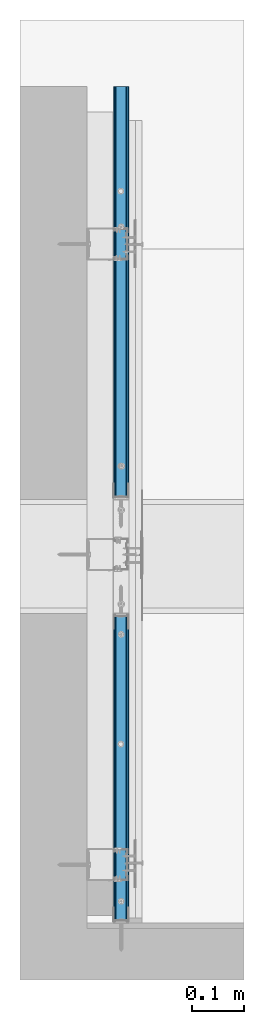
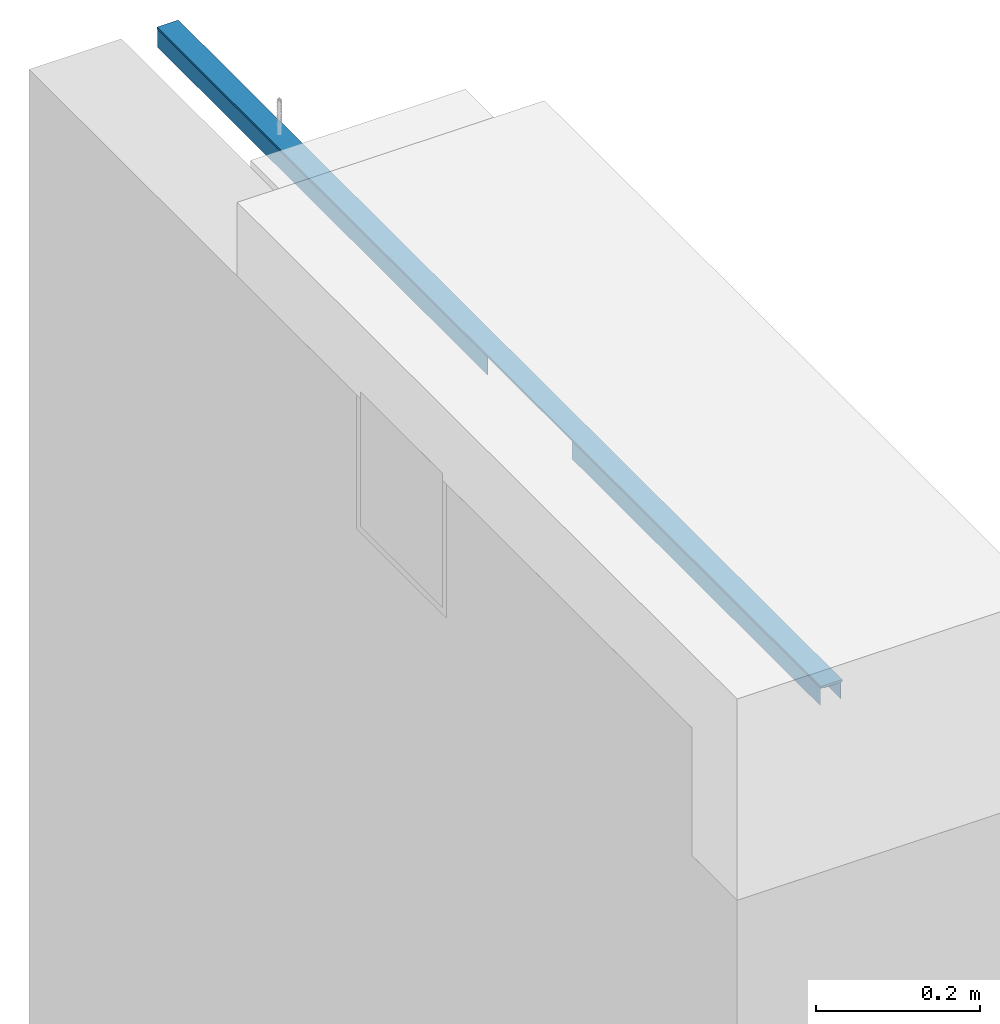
# One storey, part 2 of 67: 2 walls.
"""IFC2X3 building model written with IfcOpenShell, lengths in millimetres."""

from ifc_helpers import new_model, si_unit, frame, origin_with_axes, place, context, subcontext, project, spatial, faceted_brep, material, type_object, element, save


model = new_model("IFC2X3")

# Units and contexts
model_context = context("Model", 3, world=origin_with_axes())
body_context = subcontext(model_context, "Body", "Model", "MODEL_VIEW")
ifc_project = project(units=[si_unit("LENGTHUNIT", "METRE", prefix="MILLI"), si_unit("AREAUNIT", "SQUARE_METRE"), si_unit("VOLUMEUNIT", "CUBIC_METRE")], contexts=[model_context])

# Site, building, storey
site_placement = place(None, frame((2152.14102611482, 674.9749105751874, 57.61556563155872), z_axis=(0.0, 0.0, 1.0), x_axis=(-1.1102230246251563e-16, 1.0, 0.0)))
site = spatial("IfcSite", under=ifc_project, at=site_placement, Name="Default Site", CompositionType="ELEMENT")
building_placement = place(site_placement, origin_with_axes())
building = spatial("IfcBuilding", under=site, at=building_placement, Name="Default Building", CompositionType="ELEMENT")
storey_placement = place(building_placement, origin_with_axes())
storey = spatial("IfcBuildingStorey", under=building, at=storey_placement, Name="Default Building Storey", CompositionType="ELEMENT", Elevation=57.61556563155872)

# Walls
ifc_material_1 = material(Name="Undefined13")
wall_type_1 = type_object("IfcWallType", Name="Taśma uszczelniająca piankowa RIGIPS#3", PredefinedType="NOTDEFINED")
wall_1_placement = place(storey_placement, frame((5610.165077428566, 472.860294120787, 2631.3590203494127), z_axis=(6.092619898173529e-14, 6.866451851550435e-13, -1.0), x_axis=(-1.0, -2.0134422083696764e-15, -6.092619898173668e-14)))
element("IfcWall", 1, at=wall_1_placement, inside=storey, type_object=wall_type_1, material=ifc_material_1, Name="Taśma uszczelniająca piankowa RIGIPS", context=body_context, shape_type="Brep", body=[
    faceted_brep([(1867.1244382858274, 1498.965978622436, 113.97500336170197), (1867.1244382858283, 1498.9659786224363, 110.9749972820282), (1867.1244382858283, 1468.966007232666, 110.9749972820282), (1867.1244382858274, 1468.9660072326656, 113.97500336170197), (3487.5264937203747, 1498.9659786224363, 110.9749972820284), (3487.5264937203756, 1498.965978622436, 113.97500336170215), (3487.5264937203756, 1468.9660072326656, 113.97500336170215), (3487.5264937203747, 1468.9660072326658, 110.9749972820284)], [[[0, 1, 2, 3]], [[4, 5, 6, 7]], [[5, 0, 3, 6]], [[6, 3, 2, 7]], [[7, 2, 1, 4]], [[4, 1, 0, 5]]]),
])
ifc_material_2 = material(Name="Undefined9")
wall_type_2 = type_object("IfcWallType", Name="Profil RIGIPS UD 30 GypSerra®/Ultrastil®#6", PredefinedType="NOTDEFINED")
wall_2_placement = place(storey_placement, frame((5248.130911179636, 472.8602059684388, 2631.3590203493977), z_axis=(6.092619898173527e-14, 6.866451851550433e-13, -1.0), x_axis=(-1.0, -2.0134422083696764e-15, -6.092619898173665e-14)))
element("IfcWall", 2, at=wall_2_placement, inside=storey, type_object=wall_type_2, material=ifc_material_2, Name="Profil RIGIPS UD 30 GypSerra®/Ultrastil®", context=body_context, shape_type="Brep", body=[
    faceted_brep([(2311.0903234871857, 1469.366073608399, 140.97499847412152), (2311.0903234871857, 1469.9159860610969, 140.97499847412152), (2311.090323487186, 1469.9159860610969, 114.77500200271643), (2311.090323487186, 1469.9190855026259, 114.73589390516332), (2311.090323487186, 1469.92826461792, 114.69774693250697), (2311.090323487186, 1469.9432849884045, 114.66149985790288), (2311.090323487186, 1469.9637889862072, 114.62805420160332), (2311.090323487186, 1469.9892997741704, 114.59822207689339), (2311.090323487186, 1470.019102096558, 114.57274854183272), (2311.090323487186, 1470.0524806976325, 114.5522519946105), (2311.090323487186, 1470.088720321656, 114.53723907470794), (2311.090323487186, 1470.1268672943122, 114.52807486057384), (2311.090323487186, 1470.1660871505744, 114.5249977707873), (2311.090323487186, 1472.0159769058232, 114.52499777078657), (2311.090323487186, 1472.0621109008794, 114.5292893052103), (2311.090323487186, 1472.1066951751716, 114.54199999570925), (2311.090323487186, 1472.1480607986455, 114.56270515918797), (2311.090323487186, 1472.184896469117, 114.59068953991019), (2311.090323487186, 1472.21601009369, 114.62499946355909), (2311.0903234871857, 1473.2360839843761, 115.98499864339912), (2311.0903234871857, 1473.4039306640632, 116.1702573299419), (2311.0903234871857, 1473.6031293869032, 116.3213849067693), (2311.0903234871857, 1473.8266468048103, 116.43319576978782), (2311.0903234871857, 1474.0670919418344, 116.50185286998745), (2311.0903234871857, 1474.3160009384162, 116.52500182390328), (2311.0903234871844, 1493.6159849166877, 116.52500182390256), (2311.0903234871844, 1493.8650131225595, 116.50185286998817), (2311.0903234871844, 1494.1053390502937, 116.43319576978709), (2311.0903234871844, 1494.3289756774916, 116.32138490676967), (2311.0903234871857, 1494.5281744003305, 116.1702573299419), (2311.0903234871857, 1494.6960210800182, 115.98499864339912), (2311.090323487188, 1495.715975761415, 114.62499946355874), (2311.090323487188, 1495.747089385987, 114.59068953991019), (2311.090323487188, 1495.784044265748, 114.56270515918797), (2311.090323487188, 1495.8254098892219, 114.54199999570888), (2311.090323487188, 1495.8698749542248, 114.52928930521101), (2311.090323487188, 1495.916008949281, 114.5249977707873), (2311.090323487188, 1497.7660179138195, 114.52499777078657), (2311.090323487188, 1497.805118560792, 114.52807486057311), (2311.090323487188, 1497.843265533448, 114.53723907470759), (2311.090323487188, 1497.8795051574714, 114.5522519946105), (2311.090323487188, 1497.9130029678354, 114.57274854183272), (2311.090323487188, 1497.9428052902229, 114.59822207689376), (2311.090323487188, 1497.9683160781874, 114.62805420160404), (2311.090323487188, 1497.98882007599, 114.6614998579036), (2311.090323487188, 1498.003840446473, 114.69774693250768), (2311.090323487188, 1498.0129003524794, 114.73589390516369), (2311.090323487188, 1498.0159997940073, 114.77500200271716), (2311.0903234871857, 1498.0159997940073, 140.9749984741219), (2311.0903234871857, 1498.5660314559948, 140.9749984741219), (2311.090323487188, 1498.5660314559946, 114.7750020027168), (2311.090323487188, 1498.556137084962, 114.64985460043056), (2311.090323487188, 1498.5269308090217, 114.5277842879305), (2311.090323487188, 1498.478889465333, 114.41180855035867), (2311.090323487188, 1498.4132051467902, 114.30477350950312), (2311.090323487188, 1498.3316659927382, 114.2093166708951), (2311.090323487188, 1498.2362985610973, 114.12778496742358), (2311.090323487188, 1498.1292486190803, 114.06219750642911), (2311.090323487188, 1498.0132579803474, 114.01415616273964), (2311.090323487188, 1497.8911876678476, 113.9848530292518), (2311.090323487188, 1497.7660179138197, 113.97500336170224), (2311.090323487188, 1495.9160089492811, 113.97500336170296), (2311.090323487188, 1495.7685470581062, 113.9887198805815), (2311.090323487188, 1495.6260919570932, 114.0294075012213), (2311.090323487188, 1495.4935312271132, 114.09565806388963), (2311.090323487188, 1495.375514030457, 114.18521404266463), (2311.090323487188, 1495.2759742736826, 114.29499834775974), (2311.0903234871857, 1494.2560195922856, 115.65499752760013), (2311.0903234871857, 1494.1565990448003, 115.7647818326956), (2311.0903234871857, 1494.0385818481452, 115.8543378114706), (2311.0903234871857, 1493.9060211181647, 115.9205958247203), (2311.0903234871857, 1493.7635660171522, 115.96128344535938), (2311.0903234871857, 1493.6159849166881, 115.97499996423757), (2311.0903234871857, 1474.3160009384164, 115.9749999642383), (2311.0903234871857, 1474.1685390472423, 115.96128344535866), (2311.0903234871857, 1474.026083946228, 115.92059582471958), (2311.0903234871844, 1473.893523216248, 115.8543378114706), (2311.0903234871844, 1473.7755060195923, 115.76478183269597), (2311.0903234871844, 1473.6760854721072, 115.65499752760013), (2311.090323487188, 1472.6560115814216, 114.2949983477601), (2311.090323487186, 1472.5565910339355, 114.1852140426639), (2311.090323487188, 1472.4385738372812, 114.09565806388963), (2311.090323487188, 1472.3060131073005, 114.02940750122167), (2311.090323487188, 1472.1635580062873, 113.9887198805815), (2311.090323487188, 1472.0159769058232, 113.97500336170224), (2311.090323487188, 1470.1660871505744, 113.97500336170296), (2311.090323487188, 1470.0409173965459, 113.9848530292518), (2311.090323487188, 1469.918847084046, 114.01415616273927), (2311.090323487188, 1469.802856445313, 114.06219750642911), (2311.090323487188, 1469.6958065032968, 114.12778496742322), (2311.090323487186, 1469.600319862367, 114.20931667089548), (2311.090323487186, 1469.5187807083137, 114.30477350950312), (2311.090323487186, 1469.453215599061, 114.41180855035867), (2311.090323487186, 1469.4051742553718, 114.52778428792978), (2311.090323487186, 1469.3758487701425, 114.64985460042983), (2311.090323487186, 1469.366073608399, 114.77500200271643), (1505.0902720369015, 1469.3660736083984, 114.775002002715), (1505.0902720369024, 1469.3660736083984, 140.97499847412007), (1505.0902720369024, 1469.9159860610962, 140.97499847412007), (1505.0902720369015, 1469.9159860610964, 114.775002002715), (1505.0902720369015, 1469.9190855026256, 114.73589390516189), (1505.0902720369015, 1469.9282646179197, 114.69774693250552), (1505.0902720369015, 1469.9432849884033, 114.66149985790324), (1505.0902720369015, 1469.963788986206, 114.62805420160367), (1505.0902720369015, 1469.9892997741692, 114.59822207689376), (1505.0902720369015, 1470.019102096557, 114.57274854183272), (1505.0902720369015, 1470.0524806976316, 114.5522519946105), (1505.0902720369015, 1470.0887203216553, 114.53723907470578), (1505.0902720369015, 1470.1268672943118, 114.52807486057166), (1505.0902720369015, 1470.166087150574, 114.52499777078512), (1505.0902720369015, 1472.015976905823, 114.52499777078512), (1505.0902720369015, 1472.0621109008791, 114.52928930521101), (1505.0902720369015, 1472.1066951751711, 114.54199999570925), (1505.0902720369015, 1472.1480607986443, 114.56270515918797), (1505.0902720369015, 1472.1848964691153, 114.59068953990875), (1505.0902720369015, 1472.2160100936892, 114.62499946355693), (1505.0902720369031, 1473.236083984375, 115.98499864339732), (1505.0902720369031, 1473.4039306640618, 116.1702573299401), (1505.0902720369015, 1473.6031293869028, 116.32138490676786), (1505.0902720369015, 1473.826646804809, 116.43319576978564), (1505.0902720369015, 1474.0670919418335, 116.50185286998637), (1505.0902720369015, 1474.3160009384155, 116.5250018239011), (1505.0902720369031, 1493.615984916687, 116.52500182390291), (1505.0902720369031, 1493.8650131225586, 116.50185286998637), (1505.0902720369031, 1494.1053390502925, 116.43319576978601), (1505.0902720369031, 1494.3289756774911, 116.32138490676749), (1505.0902720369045, 1494.528174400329, 116.17025732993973), (1505.0902720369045, 1494.696021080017, 115.98499864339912), (1505.0902720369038, 1495.7159757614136, 114.62499946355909), (1505.0902720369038, 1495.7470893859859, 114.59068953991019), (1505.0902720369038, 1495.7840442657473, 114.56270515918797), (1505.0902720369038, 1495.8254098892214, 114.54199999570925), (1505.0902720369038, 1495.8698749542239, 114.52928930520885), (1505.0902720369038, 1495.91600894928, 114.52499777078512), (1505.0902720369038, 1497.7660179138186, 114.52499777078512), (1505.0902720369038, 1497.8051185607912, 114.52807486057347), (1505.0902720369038, 1497.8432655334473, 114.53723907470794), (1505.0902720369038, 1497.8795051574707, 114.5522519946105), (1505.0902720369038, 1497.913002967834, 114.57274854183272), (1505.0902720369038, 1497.9428052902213, 114.59822207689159), (1505.0902720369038, 1497.968316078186, 114.62805420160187), (1505.0902720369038, 1497.9888200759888, 114.66149985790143), (1505.0902720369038, 1498.0038404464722, 114.69774693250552), (1505.0902720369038, 1498.012900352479, 114.73589390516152), (1505.0902720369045, 1498.0159997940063, 114.775002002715), (1505.0902720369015, 1498.0159997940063, 140.97499847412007), (1505.0902720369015, 1498.5660314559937, 140.97499847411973), (1505.0902720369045, 1498.5660314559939, 114.775002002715), (1505.0902720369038, 1498.556137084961, 114.6498546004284), (1505.0902720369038, 1498.526930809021, 114.52778428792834), (1505.0902720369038, 1498.478889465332, 114.41180855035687), (1505.0902720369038, 1498.4132051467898, 114.30477350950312), (1505.0902720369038, 1498.331665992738, 114.20931667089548), (1505.0902720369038, 1498.236298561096, 114.12778496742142), (1505.0902720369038, 1498.1292486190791, 114.06219750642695), (1505.0902720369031, 1498.013257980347, 114.01415616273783), (1505.0902720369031, 1497.8911876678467, 113.9848530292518), (1505.0902720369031, 1497.7660179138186, 113.97500336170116), (1505.0902720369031, 1495.91600894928, 113.97500336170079), (1505.0902720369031, 1495.7685470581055, 113.9887198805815), (1505.0902720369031, 1495.6260919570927, 114.02940750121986), (1505.0902720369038, 1495.4935312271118, 114.09565806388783), (1505.0902720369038, 1495.3755140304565, 114.18521404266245), (1505.0902720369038, 1495.2759742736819, 114.2949983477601), (1505.0902720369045, 1494.2560195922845, 115.65499752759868), (1505.0902720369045, 1494.1565990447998, 115.7647818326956), (1505.0902720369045, 1494.0385818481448, 115.85433781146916), (1505.0902720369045, 1493.9060211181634, 115.92059582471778), (1505.0902720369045, 1493.7635660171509, 115.96128344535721), (1505.0902720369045, 1493.615984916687, 115.97499996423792), (1505.0902720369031, 1474.3160009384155, 115.97499996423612), (1505.0902720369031, 1474.1685390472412, 115.96128344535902), (1505.0902720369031, 1474.0260839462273, 115.92059582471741), (1505.0902720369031, 1473.8935232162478, 115.8543378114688), (1505.0902720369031, 1473.7755060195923, 115.76478183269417), (1505.0902720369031, 1473.6760854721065, 115.65499752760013), (1505.0902720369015, 1472.6560115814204, 114.2949983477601), (1505.0902720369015, 1472.5565910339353, 114.18521404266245), (1505.0902720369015, 1472.43857383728, 114.09565806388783), (1505.0902720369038, 1472.3060131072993, 114.0294075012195), (1505.0902720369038, 1472.1635580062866, 113.9887198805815), (1505.0902720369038, 1472.015976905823, 113.97500336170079), (1505.0902720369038, 1470.166087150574, 113.97500336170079), (1505.0902720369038, 1470.0409173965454, 113.9848530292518), (1505.0902720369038, 1469.9188470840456, 114.01415616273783), (1505.0902720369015, 1469.802856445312, 114.06219750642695), (1505.0902720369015, 1469.695806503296, 114.12778496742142), (1505.0902720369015, 1469.6003198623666, 114.2093166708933), (1505.0902720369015, 1469.5187807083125, 114.30477350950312), (1505.0902720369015, 1469.45321559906, 114.41180855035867), (1505.0902720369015, 1469.405174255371, 114.5277842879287), (1505.0902720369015, 1469.3758487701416, 114.6498546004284), (2517.105828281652, 1469.366073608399, 140.97499847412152), (2517.105828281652, 1469.9159860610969, 140.97499847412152), (2517.1058282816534, 1469.9159860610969, 114.77500200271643), (2517.1058282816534, 1469.9190855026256, 114.73589390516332), (2517.1058282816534, 1469.92826461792, 114.69774693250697), (2517.1058282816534, 1469.943284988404, 114.66149985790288), (2517.1058282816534, 1469.9637889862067, 114.62805420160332), (2517.1058282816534, 1469.98929977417, 114.59822207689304), (2517.1058282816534, 1470.0191020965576, 114.57274854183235), (2517.1058282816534, 1470.0524806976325, 114.55225199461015), (2517.1058282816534, 1470.088720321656, 114.53723907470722), (2517.1058282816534, 1470.1268672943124, 114.52807486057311), (2517.1058282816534, 1470.1660871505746, 114.52499777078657), (2517.1058282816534, 1472.0159769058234, 114.52499777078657), (2517.1058282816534, 1472.0621109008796, 114.5292893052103), (2517.1058282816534, 1472.1066951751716, 114.54199999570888), (2517.1058282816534, 1472.148060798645, 114.5627051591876), (2517.1058282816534, 1472.1848964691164, 114.59068953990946), (2517.1058282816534, 1472.2160100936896, 114.62499946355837), (2517.105828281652, 1473.2360839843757, 115.9849986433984), (2517.105828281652, 1473.403930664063, 116.1702573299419), (2517.105828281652, 1473.6031293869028, 116.3213849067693), (2517.105828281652, 1473.8266468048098, 116.43319576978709), (2517.105828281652, 1474.0670919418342, 116.50185286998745), (2517.105828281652, 1474.3160009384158, 116.52500182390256), (2517.1058282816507, 1493.6159849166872, 116.52500182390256), (2517.1058282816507, 1493.865013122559, 116.5018528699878), (2517.1058282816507, 1494.1053390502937, 116.43319576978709), (2517.1058282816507, 1494.3289756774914, 116.32138490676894), (2517.105828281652, 1494.5281744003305, 116.17025732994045), (2517.105828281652, 1494.6960210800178, 115.98499864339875), (2517.105828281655, 1495.7159757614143, 114.62499946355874), (2517.105828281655, 1495.747089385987, 114.59068953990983), (2517.105828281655, 1495.784044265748, 114.5627051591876), (2517.105828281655, 1495.8254098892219, 114.54199999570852), (2517.105828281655, 1495.8698749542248, 114.5292893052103), (2517.105828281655, 1495.916008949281, 114.52499777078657), (2517.105828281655, 1497.7660179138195, 114.52499777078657), (2517.105828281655, 1497.805118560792, 114.52807486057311), (2517.105828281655, 1497.8432655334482, 114.53723907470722), (2517.105828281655, 1497.8795051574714, 114.55225199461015), (2517.105828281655, 1497.9130029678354, 114.57274854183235), (2517.105828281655, 1497.9428052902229, 114.59822207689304), (2517.105828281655, 1497.9683160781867, 114.62805420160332), (2517.105828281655, 1497.9888200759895, 114.66149985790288), (2517.105828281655, 1498.0038404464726, 114.69774693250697), (2517.105828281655, 1498.012900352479, 114.73589390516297), (2517.105828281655, 1498.0159997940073, 114.77500200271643), (2517.105828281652, 1498.0159997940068, 140.97499847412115), (2517.105828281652, 1498.5660314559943, 140.97499847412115), (2517.105828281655, 1498.5660314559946, 114.77500200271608), (2517.105828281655, 1498.5561370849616, 114.64985460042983), (2517.105828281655, 1498.5269308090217, 114.52778428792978), (2517.105828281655, 1498.4788894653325, 114.41180855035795), (2517.105828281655, 1498.4132051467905, 114.30477350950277), (2517.105828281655, 1498.331665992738, 114.2093166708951), (2517.105828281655, 1498.2362985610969, 114.1277849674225), (2517.105828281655, 1498.1292486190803, 114.06219750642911), (2517.105828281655, 1498.0132579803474, 114.01415616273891), (2517.105828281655, 1497.8911876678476, 113.98485302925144), (2517.105828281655, 1497.7660179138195, 113.97500336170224), (2517.105828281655, 1495.916008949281, 113.97500336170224), (2517.105828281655, 1495.7685470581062, 113.98871988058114), (2517.105828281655, 1495.6260919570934, 114.02940750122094), (2517.105828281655, 1495.4935312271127, 114.09565806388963), (2517.105828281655, 1495.3755140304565, 114.1852140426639), (2517.105828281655, 1495.2759742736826, 114.29499834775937), (2517.105828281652, 1494.2560195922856, 115.65499752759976), (2517.105828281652, 1494.1565990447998, 115.76478183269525), (2517.105828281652, 1494.0385818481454, 115.85433781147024), (2517.105828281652, 1493.9060211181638, 115.9205958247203), (2517.105828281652, 1493.7635660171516, 115.96128344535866), (2517.105828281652, 1493.6159849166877, 115.97499996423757), (2517.105828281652, 1474.3160009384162, 115.97499996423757), (2517.105828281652, 1474.168539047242, 115.96128344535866), (2517.105828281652, 1474.0260839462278, 115.92059582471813), (2517.1058282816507, 1473.8935232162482, 115.85433781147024), (2517.1058282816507, 1473.7755060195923, 115.76478183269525), (2517.1058282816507, 1473.6760854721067, 115.65499752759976), (2517.105828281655, 1472.6560115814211, 114.29499834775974), (2517.1058282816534, 1472.5565910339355, 114.1852140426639), (2517.105828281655, 1472.438573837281, 114.09565806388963), (2517.105828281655, 1472.3060131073, 114.02940750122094), (2517.105828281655, 1472.1635580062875, 113.98871988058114), (2517.105828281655, 1472.0159769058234, 113.97500336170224), (2517.105828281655, 1470.1660871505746, 113.97500336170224), (2517.105828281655, 1470.040917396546, 113.98485302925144), (2517.105828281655, 1469.918847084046, 114.01415616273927), (2517.105828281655, 1469.8028564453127, 114.06219750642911), (2517.105828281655, 1469.6958065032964, 114.1277849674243), (2517.1058282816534, 1469.6003198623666, 114.20931667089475), (2517.1058282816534, 1469.5187807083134, 114.30477350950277), (2517.1058282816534, 1469.4532155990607, 114.4118085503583), (2517.1058282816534, 1469.405174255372, 114.52778428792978), (2517.1058282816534, 1469.375848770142, 114.64985460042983), (2517.1058282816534, 1469.3660736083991, 114.77500200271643), (3123.105822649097, 1469.9159860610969, 140.97499847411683), (3123.105822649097, 1469.3660736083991, 140.97499847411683), (3123.105822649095, 1469.3660736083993, 114.77500200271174), (3123.105822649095, 1469.375848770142, 114.64985460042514), (3123.105822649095, 1469.405174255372, 114.52778428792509), (3123.105822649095, 1469.4532155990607, 114.41180855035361), (3123.105822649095, 1469.5187807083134, 114.30477350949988), (3123.105822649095, 1469.6003198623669, 114.20931667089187), (3123.1058226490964, 1469.6958065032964, 114.12778496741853), (3123.1058226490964, 1469.8028564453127, 114.06219750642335), (3123.1058226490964, 1469.9188470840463, 114.01415616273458), (3123.1058226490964, 1470.0409173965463, 113.98485302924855), (3123.1058226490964, 1470.1660871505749, 113.9750033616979), (3123.1058226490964, 1472.0159769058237, 113.97500336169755), (3123.1058226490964, 1472.1635580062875, 113.98871988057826), (3123.1058226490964, 1472.3060131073, 114.02940750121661), (3123.1058226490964, 1472.438573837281, 114.09565806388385), (3123.105822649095, 1472.5565910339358, 114.18521404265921), (3123.1058226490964, 1472.6560115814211, 114.29499834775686), (3123.1058226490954, 1473.6760854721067, 115.65499752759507), (3123.1058226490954, 1473.7755060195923, 115.76478183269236), (3123.1058226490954, 1473.8935232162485, 115.85433781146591), (3123.105822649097, 1474.0260839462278, 115.9205958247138), (3123.105822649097, 1474.168539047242, 115.96128344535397), (3123.105822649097, 1474.3160009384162, 115.97499996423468), (3123.105822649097, 1493.6159849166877, 115.97499996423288), (3123.105822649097, 1493.7635660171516, 115.96128344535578), (3123.105822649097, 1493.9060211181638, 115.92059582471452), (3123.105822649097, 1494.0385818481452, 115.85433781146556), (3123.105822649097, 1494.1565990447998, 115.76478183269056), (3123.105822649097, 1494.256019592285, 115.65499752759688), (3123.1058226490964, 1495.2759742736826, 114.29499834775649), (3123.1058226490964, 1495.3755140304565, 114.18521404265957), (3123.1058226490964, 1495.4935312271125, 114.09565806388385), (3123.1058226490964, 1495.6260919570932, 114.02940750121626), (3123.1058226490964, 1495.7685470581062, 113.98871988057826), (3123.1058226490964, 1495.916008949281, 113.9750033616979), (3123.1058226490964, 1497.7660179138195, 113.97500336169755), (3123.1058226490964, 1497.8911876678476, 113.98485302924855), (3123.1058226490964, 1498.0132579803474, 114.01415616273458), (3123.1058226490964, 1498.1292486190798, 114.06219750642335), (3123.1058226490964, 1498.2362985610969, 114.12778496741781), (3123.1058226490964, 1498.331665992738, 114.20931667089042), (3123.1058226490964, 1498.4132051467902, 114.30477350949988), (3123.1058226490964, 1498.4788894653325, 114.41180855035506), (3123.1058226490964, 1498.5269308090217, 114.52778428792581), (3123.1058226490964, 1498.5561370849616, 114.64985460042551), (3123.1058226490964, 1498.5660314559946, 114.77500200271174), (3123.105822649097, 1498.5660314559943, 140.97499847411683), (3123.105822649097, 1498.0159997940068, 140.97499847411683), (3123.1058226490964, 1498.0159997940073, 114.77500200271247), (3123.1058226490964, 1498.012900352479, 114.73589390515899), (3123.1058226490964, 1498.0038404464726, 114.69774693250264), (3123.1058226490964, 1497.9888200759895, 114.6614998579), (3123.1058226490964, 1497.9683160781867, 114.62805420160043), (3123.1058226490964, 1497.9428052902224, 114.59822207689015), (3123.1058226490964, 1497.9130029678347, 114.57274854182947), (3123.1058226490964, 1497.8795051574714, 114.55225199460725), (3123.1058226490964, 1497.843265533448, 114.53723907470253), (3123.1058226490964, 1497.805118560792, 114.52807486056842), (3123.1058226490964, 1497.7660179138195, 114.52499777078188), (3123.1058226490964, 1495.916008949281, 114.5249977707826), (3123.1058226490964, 1495.8698749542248, 114.5292893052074), (3123.1058226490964, 1495.8254098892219, 114.54199999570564), (3123.1058226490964, 1495.784044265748, 114.56270515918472), (3123.1058226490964, 1495.7470893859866, 114.59068953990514), (3123.1058226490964, 1495.7159757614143, 114.62499946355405), (3123.105822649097, 1494.6960210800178, 115.98499864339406), (3123.105822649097, 1494.5281744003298, 116.17025732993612), (3123.1058226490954, 1494.3289756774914, 116.3213849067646), (3123.1058226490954, 1494.1053390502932, 116.4331957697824), (3123.1058226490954, 1493.865013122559, 116.50185286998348), (3123.1058226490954, 1493.6159849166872, 116.52500182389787), (3123.105822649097, 1474.3160009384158, 116.52500182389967), (3123.105822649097, 1474.0670919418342, 116.50185286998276), (3123.105822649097, 1473.8266468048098, 116.43319576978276), (3123.105822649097, 1473.603129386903, 116.3213849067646), (3123.105822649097, 1473.403930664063, 116.17025732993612), (3123.105822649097, 1473.2360839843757, 115.98499864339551), (3123.105822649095, 1472.2160100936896, 114.62499946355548), (3123.105822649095, 1472.1848964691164, 114.59068953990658), (3123.105822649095, 1472.148060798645, 114.56270515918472), (3123.105822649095, 1472.1066951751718, 114.54199999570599), (3123.105822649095, 1472.0621109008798, 114.5292893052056), (3123.105822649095, 1472.0159769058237, 114.52499777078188), (3123.105822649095, 1470.1660871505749, 114.52499777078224), (3123.105822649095, 1470.1268672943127, 114.52807486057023), (3123.105822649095, 1470.088720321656, 114.53723907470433), (3123.105822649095, 1470.0524806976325, 114.55225199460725), (3123.105822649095, 1470.0191020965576, 114.57274854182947), (3123.105822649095, 1469.98929977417, 114.59822207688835), (3123.105822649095, 1469.9637889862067, 114.62805420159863), (3123.105822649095, 1469.943284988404, 114.66149985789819), (3123.105822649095, 1469.9282646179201, 114.69774693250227), (3123.105822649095, 1469.9190855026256, 114.73589390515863), (3123.105822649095, 1469.915986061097, 114.77500200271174)], [[[0, 1, 2, 3, 4, 5, 6, 7, 8, 9, 10, 11, 12, 13, 14, 15, 16, 17, 18, 19, 20, 21, 22, 23, 24, 25, 26, 27, 28, 29, 30, 31, 32, 33, 34, 35, 36, 37, 38, 39, 40, 41, 42, 43, 44, 45, 46, 47, 48, 49, 50, 51, 52, 53, 54, 55, 56, 57, 58, 59, 60, 61, 62, 63, 64, 65, 66, 67, 68, 69, 70, 71, 72, 73, 74, 75, 76, 77, 78, 79, 80, 81, 82, 83, 84, 85, 86, 87, 88, 89, 90, 91, 92, 93, 94, 95]], [[96, 97, 98, 99, 100, 101, 102, 103, 104, 105, 106, 107, 108, 109, 110, 111, 112, 113, 114, 115, 116, 117, 118, 119, 120, 121, 122, 123, 124, 125, 126, 127, 128, 129, 130, 131, 132, 133, 134, 135, 136, 137, 138, 139, 140, 141, 142, 143, 144, 145, 146, 147, 148, 149, 150, 151, 152, 153, 154, 155, 156, 157, 158, 159, 160, 161, 162, 163, 164, 165, 166, 167, 168, 169, 170, 171, 172, 173, 174, 175, 176, 177, 178, 179, 180, 181, 182, 183, 184, 185, 186, 187, 188, 189, 190, 191]], [[192, 193, 194, 195, 196, 197, 198, 199, 200, 201, 202, 203, 204, 205, 206, 207, 208, 209, 210, 211, 212, 213, 214, 215, 216, 217, 218, 219, 220, 221, 222, 223, 224, 225, 226, 227, 228, 229, 230, 231, 232, 233, 234, 235, 236, 237, 238, 239, 240, 241, 242, 243, 244, 245, 246, 247, 248, 249, 250, 251, 252, 253, 254, 255, 256, 257, 258, 259, 260, 261, 262, 263, 264, 265, 266, 267, 268, 269, 270, 271, 272, 273, 274, 275, 276, 277, 278, 279, 280, 281, 282, 283, 284, 285, 286, 287]], [[288, 289, 290, 291, 292, 293, 294, 295, 296, 297, 298, 299, 300, 301, 302, 303, 304, 305, 306, 307, 308, 309, 310, 311, 312, 313, 314, 315, 316, 317, 318, 319, 320, 321, 322, 323, 324, 325, 326, 327, 328, 329, 330, 331, 332, 333, 334, 335, 336, 337, 338, 339, 340, 341, 342, 343, 344, 345, 346, 347, 348, 349, 350, 351, 352, 353, 354, 355, 356, 357, 358, 359, 360, 361, 362, 363, 364, 365, 366, 367, 368, 369, 370, 371, 372, 373, 374, 375, 376, 377, 378, 379, 380, 381, 382, 383]], [[193, 192, 289, 288]], [[192, 287, 290, 289]], [[287, 286, 291, 290]], [[286, 285, 292, 291]], [[285, 284, 293, 292]], [[284, 283, 294, 293]], [[283, 282, 295, 294]], [[282, 281, 296, 295]], [[281, 280, 297, 296]], [[280, 279, 298, 297]], [[279, 278, 299, 298]], [[278, 277, 300, 299]], [[277, 276, 301, 300]], [[276, 275, 302, 301]], [[275, 274, 303, 302]], [[274, 273, 304, 303]], [[273, 272, 305, 304]], [[272, 271, 306, 305]], [[271, 270, 307, 306]], [[270, 269, 308, 307]], [[269, 268, 309, 308]], [[268, 267, 310, 309]], [[267, 266, 311, 310]], [[266, 265, 312, 311]], [[265, 264, 313, 312]], [[264, 263, 314, 313]], [[263, 262, 315, 314]], [[262, 261, 316, 315]], [[261, 260, 317, 316]], [[260, 259, 318, 317]], [[259, 258, 319, 318]], [[258, 257, 320, 319]], [[257, 256, 321, 320]], [[256, 255, 322, 321]], [[255, 254, 323, 322]], [[254, 253, 324, 323]], [[253, 252, 325, 324]], [[252, 251, 326, 325]], [[251, 250, 327, 326]], [[250, 249, 328, 327]], [[249, 248, 329, 328]], [[248, 247, 330, 329]], [[247, 246, 331, 330]], [[246, 245, 332, 331]], [[245, 244, 333, 332]], [[244, 243, 334, 333]], [[243, 242, 335, 334]], [[242, 241, 336, 335]], [[241, 240, 337, 336]], [[240, 239, 338, 337]], [[239, 238, 339, 338]], [[238, 237, 340, 339]], [[237, 236, 341, 340]], [[236, 235, 342, 341]], [[235, 234, 343, 342]], [[234, 233, 344, 343]], [[233, 232, 345, 344]], [[232, 231, 346, 345]], [[231, 230, 347, 346]], [[230, 229, 348, 347]], [[229, 228, 349, 348]], [[228, 227, 350, 349]], [[227, 226, 351, 350]], [[226, 225, 352, 351]], [[225, 224, 353, 352]], [[224, 223, 354, 353]], [[223, 222, 355, 354]], [[222, 221, 356, 355]], [[221, 220, 357, 356]], [[220, 219, 358, 357]], [[219, 218, 359, 358]], [[218, 217, 360, 359]], [[217, 216, 361, 360]], [[216, 215, 362, 361]], [[215, 214, 363, 362]], [[214, 213, 364, 363]], [[213, 212, 365, 364]], [[212, 211, 366, 365]], [[211, 210, 367, 366]], [[210, 209, 368, 367]], [[209, 208, 369, 368]], [[208, 207, 370, 369]], [[207, 206, 371, 370]], [[206, 205, 372, 371]], [[205, 204, 373, 372]], [[204, 203, 374, 373]], [[203, 202, 375, 374]], [[202, 201, 376, 375]], [[201, 200, 377, 376]], [[200, 199, 378, 377]], [[199, 198, 379, 378]], [[198, 197, 380, 379]], [[197, 196, 381, 380]], [[196, 195, 382, 381]], [[195, 194, 383, 382]], [[194, 193, 288, 383]], [[180, 83, 84, 181]], [[79, 176, 175, 78]], [[171, 74, 75, 172]], [[166, 69, 70, 167]], [[172, 75, 76, 173]], [[173, 76, 77, 174]], [[170, 73, 74, 171]], [[169, 72, 73, 170]], [[68, 165, 164, 67]], [[165, 68, 69, 166]], [[168, 71, 72, 169]], [[167, 70, 71, 168]], [[66, 67, 164, 163]], [[78, 175, 174, 77]], [[158, 61, 62, 159]], [[159, 62, 63, 160]], [[161, 64, 65, 162]], [[53, 150, 149, 52]], [[160, 63, 64, 161]], [[66, 163, 162, 65]], [[51, 148, 147, 50]], [[52, 149, 148, 51]], [[157, 60, 61, 158]], [[55, 152, 151, 54]], [[156, 59, 60, 157]], [[146, 145, 48, 49]], [[135, 134, 37, 38]], [[137, 136, 39, 40]], [[138, 137, 40, 41]], [[43, 140, 139, 42]], [[44, 141, 140, 43]], [[155, 58, 59, 156]], [[47, 48, 145, 144]], [[50, 147, 146, 49]], [[152, 55, 56, 153]], [[136, 135, 38, 39]], [[139, 138, 41, 42]], [[45, 142, 141, 44]], [[46, 143, 142, 45]], [[47, 144, 143, 46]], [[32, 129, 128, 31]], [[154, 57, 58, 155]], [[134, 133, 36, 37]], [[54, 151, 150, 53]], [[153, 56, 57, 154]], [[92, 189, 188, 91]], [[122, 121, 24, 25]], [[121, 120, 23, 24]], [[124, 123, 26, 27]], [[4, 101, 100, 3]], [[126, 125, 28, 29]], [[91, 188, 187, 90]], [[106, 105, 8, 9]], [[114, 113, 16, 17]], [[133, 132, 35, 36]], [[125, 124, 27, 28]], [[3, 100, 99, 2]], [[120, 119, 22, 23]], [[112, 111, 14, 15]], [[5, 102, 101, 4]], [[7, 104, 103, 6]], [[98, 97, 0, 1]], [[111, 110, 13, 14]], [[18, 115, 114, 17]], [[119, 118, 21, 22]], [[130, 129, 32, 33]], [[108, 107, 10, 11]], [[183, 86, 87, 184]], [[131, 130, 33, 34]], [[132, 131, 34, 35]], [[31, 128, 127, 30]], [[30, 127, 126, 29]], [[113, 112, 15, 16]], [[110, 109, 12, 13]], [[123, 122, 25, 26]], [[109, 108, 11, 12]], [[2, 99, 98, 1]], [[95, 0, 97, 96]], [[107, 106, 9, 10]], [[182, 85, 86, 183]], [[184, 87, 88, 185]], [[20, 117, 116, 19]], [[118, 117, 20, 21]], [[18, 19, 116, 115]], [[6, 103, 102, 5]], [[105, 104, 7, 8]], [[186, 89, 90, 187]], [[185, 88, 89, 186]], [[79, 80, 177, 176]], [[93, 190, 189, 92]], [[177, 80, 81, 178]], [[178, 81, 82, 179]], [[94, 191, 190, 93]], [[179, 82, 83, 180]], [[95, 96, 191, 94]], [[181, 84, 85, 182]]]),
])

save(model, "model.ifc")
